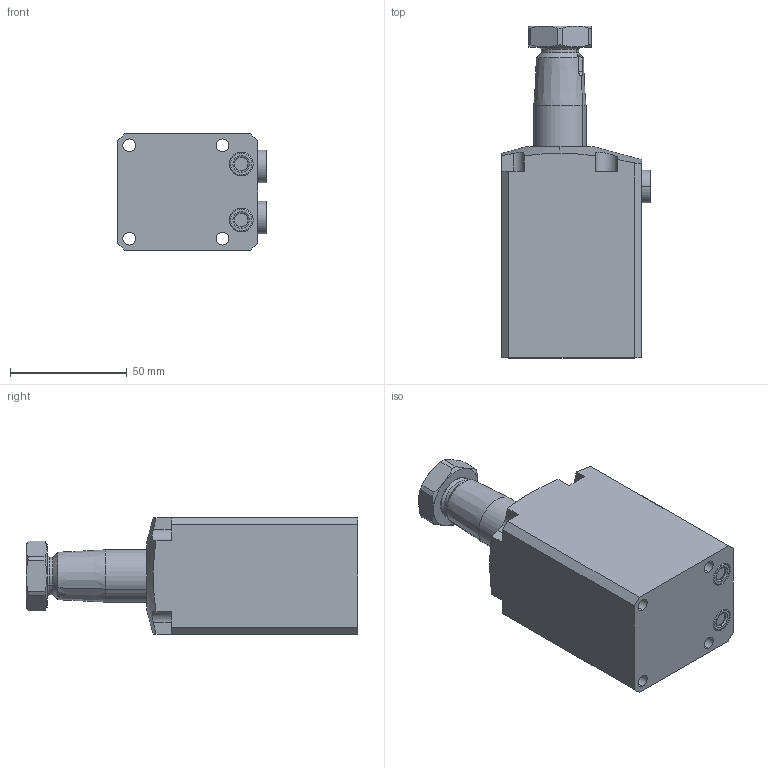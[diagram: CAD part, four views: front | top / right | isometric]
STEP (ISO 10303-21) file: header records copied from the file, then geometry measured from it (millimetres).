
FILE_DESCRIPTION(/* description */ (''),/* implementation_level */ '2;1');
FILE_NAME(/* name */ 'BRC04-LN30.stp',/* time_stamp */ '2025-01-04T15:09:12+08:00',/* author */ (''),/* organization */ (''),/* preprocessor_version */ 'ST-DEVELOPER v16.7',/* originating_system */ 'SIEMENS PLM Software NX 12.0',/* authorisation */ '');
FILE_SCHEMA (('AUTOMOTIVE_DESIGN { 1 0 10303 214 3 1 1 1 }'));
Length unit declared in the file: millimetre
Products named in the file (5): BRC04-LN30-04; BRC04-LN30-03; BRC04-LN30-02; BRC04-LN30-01; BTU04-LN30_step
Assembly tree (5 placements, depth 2):
  BTU04-LN30_step
    BRC04-LN30-01
    BRC04-LN30-02
    BRC04-LN30-03  x2
    BRC04-LN30-04
Bounding box: 63.8 x 142.3 x 50 mm (x, y, z)
Volume: 269509 mm3; surface area: 39855.1 mm2
Topology: 7 solids, 7 shells, 176 faces, 401 edges, 248 vertices
Faces by surface type: plane 68, cylinder 57, cone 34, torus 16, sphere 1
Full cylindrical faces by diameter (mm): 8.5 x2
Entity records: 4666 total; most frequent: CARTESIAN_POINT 963, DIRECTION 778, ORIENTED_EDGE 712, EDGE_CURVE 356, AXIS2_PLACEMENT_3D 313, VERTEX_POINT 222, EDGE_LOOP 180, ADVANCED_FACE 156
